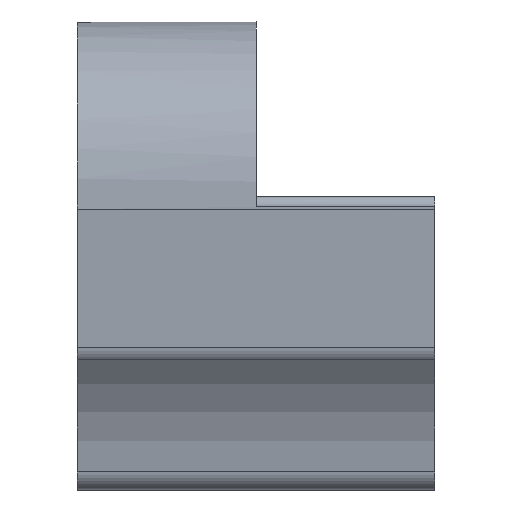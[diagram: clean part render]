
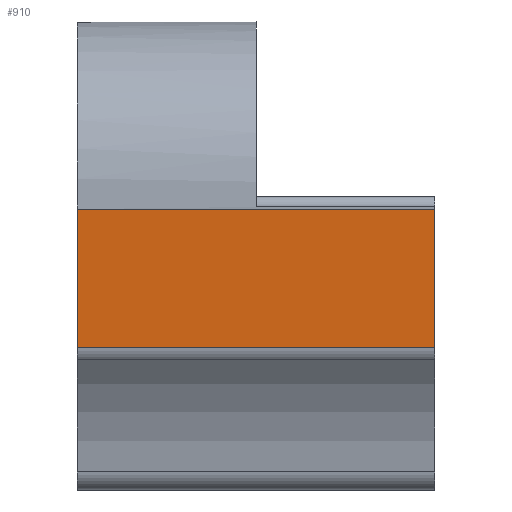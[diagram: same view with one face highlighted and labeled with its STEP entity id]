
A CAD part, left-side view. The second image highlights one B-rep face of the part: STEP entity #910.
In plain terms, the highlighted planar face has unit normal (-0.997, 0, -0.072).
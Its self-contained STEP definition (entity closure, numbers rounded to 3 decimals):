
#57 = LINE ( 'NONE', #646, #732 ) ;
#82 = FACE_OUTER_BOUND ( 'NONE', #1416, .T. ) ;
#149 = VECTOR ( 'NONE', #1790, 1000. ) ;
#165 = LINE ( 'NONE', #1804, #149 ) ;
#202 = AXIS2_PLACEMENT_3D ( 'NONE', #1944, #1875, #1921 ) ;
#327 = EDGE_CURVE ( 'NONE', #1024, #771, #780, .T. ) ;
#339 = EDGE_CURVE ( 'NONE', #1002, #1133, #879, .T. ) ;
#441 = EDGE_CURVE ( 'NONE', #1002, #1024, #57, .T. ) ;
#483 = EDGE_CURVE ( 'NONE', #771, #1133, #165, .T. ) ;
#646 = CARTESIAN_POINT ( 'NONE',  ( -8.524, -9., -4.128 ) ) ;
#657 = DIRECTION ( 'NONE',  ( -0.072, 0., 0.997 ) ) ;
#732 = VECTOR ( 'NONE', #657, 1000. ) ;
#771 = VERTEX_POINT ( 'NONE', #1828 ) ;
#780 = LINE ( 'NONE', #1644, #788 ) ;
#788 = VECTOR ( 'NONE', #1651, 1000. ) ;
#826 = VECTOR ( 'NONE', #1654, 1000. ) ;
#879 = LINE ( 'NONE', #1697, #826 ) ;
#910 = ADVANCED_FACE ( 'NONE', ( #82 ), #1773, .T. ) ;
#1002 = VERTEX_POINT ( 'NONE', #1611 ) ;
#1024 = VERTEX_POINT ( 'NONE', #1551 ) ;
#1133 = VERTEX_POINT ( 'NONE', #1708 ) ;
#1416 = EDGE_LOOP ( 'NONE', ( #1448, #1466, #1475, #1470 ) ) ;
#1448 = ORIENTED_EDGE ( 'NONE', *, *, #483, .T. ) ;
#1466 = ORIENTED_EDGE ( 'NONE', *, *, #339, .F. ) ;
#1470 = ORIENTED_EDGE ( 'NONE', *, *, #327, .T. ) ;
#1475 = ORIENTED_EDGE ( 'NONE', *, *, #441, .T. ) ;
#1551 = CARTESIAN_POINT ( 'NONE',  ( -8.777, -9., -0.636 ) ) ;
#1611 = CARTESIAN_POINT ( 'NONE',  ( -8.271, -9., -7.619 ) ) ;
#1644 = CARTESIAN_POINT ( 'NONE',  ( -8.777, 9., -0.636 ) ) ;
#1651 = DIRECTION ( 'NONE',  ( 0., 1., 0. ) ) ;
#1654 = DIRECTION ( 'NONE',  ( 0., 1., 0. ) ) ;
#1697 = CARTESIAN_POINT ( 'NONE',  ( -8.271, -9., -7.619 ) ) ;
#1708 = CARTESIAN_POINT ( 'NONE',  ( -8.271, 9., -7.619 ) ) ;
#1773 = PLANE ( 'NONE',  #202 ) ;
#1790 = DIRECTION ( 'NONE',  ( 0.072, 0., -0.997 ) ) ;
#1804 = CARTESIAN_POINT ( 'NONE',  ( -8.271, 9., -7.619 ) ) ;
#1828 = CARTESIAN_POINT ( 'NONE',  ( -8.777, 9., -0.636 ) ) ;
#1875 = DIRECTION ( 'NONE',  ( -0.997, 0., -0.072 ) ) ;
#1921 = DIRECTION ( 'NONE',  ( -0.072, 0., 0.997 ) ) ;
#1944 = CARTESIAN_POINT ( 'NONE',  ( -8.271, -9., -7.619 ) ) ;
